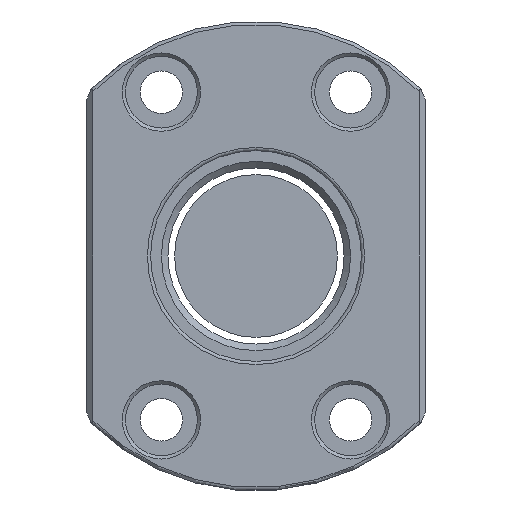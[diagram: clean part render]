
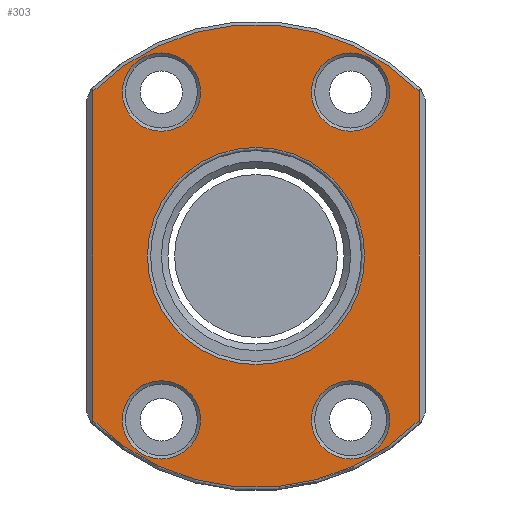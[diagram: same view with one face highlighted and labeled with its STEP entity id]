
A CAD part, front view. The second image highlights one B-rep face of the part: STEP entity #303.
In plain terms, the highlighted planar face has unit normal (0, -1, 0).
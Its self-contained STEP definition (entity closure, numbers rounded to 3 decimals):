
#57=LINE('',#2110,#97);
#58=LINE('',#2114,#98);
#97=VECTOR('',#1744,1.);
#98=VECTOR('',#1747,1.);
#209=PLANE('',#1440);
#303=ADVANCED_FACE('',(#460,#461,#462,#463,#464,#465),#209,.F.);
#460=FACE_BOUND('',#616,.T.);
#461=FACE_BOUND('',#617,.T.);
#462=FACE_BOUND('',#618,.T.);
#463=FACE_BOUND('',#619,.T.);
#464=FACE_BOUND('',#620,.T.);
#465=FACE_BOUND('',#621,.T.);
#616=EDGE_LOOP('',(#827));
#617=EDGE_LOOP('',(#828));
#618=EDGE_LOOP('',(#829));
#619=EDGE_LOOP('',(#830));
#620=EDGE_LOOP('',(#831));
#621=EDGE_LOOP('',(#832,#833,#834,#835));
#827=ORIENTED_EDGE('',*,*,#1174,.T.);
#828=ORIENTED_EDGE('',*,*,#1175,.T.);
#829=ORIENTED_EDGE('',*,*,#1176,.T.);
#830=ORIENTED_EDGE('',*,*,#1177,.T.);
#831=ORIENTED_EDGE('',*,*,#1178,.T.);
#832=ORIENTED_EDGE('',*,*,#1179,.T.);
#833=ORIENTED_EDGE('',*,*,#1180,.T.);
#834=ORIENTED_EDGE('',*,*,#1181,.T.);
#835=ORIENTED_EDGE('',*,*,#1182,.T.);
#1047=VERTEX_POINT('',#2098);
#1048=VERTEX_POINT('',#2100);
#1049=VERTEX_POINT('',#2102);
#1050=VERTEX_POINT('',#2104);
#1051=VERTEX_POINT('',#2106);
#1052=VERTEX_POINT('',#2108);
#1053=VERTEX_POINT('',#2109);
#1054=VERTEX_POINT('',#2111);
#1055=VERTEX_POINT('',#2113);
#1174=EDGE_CURVE('',#1047,#1047,#1299,.T.);
#1175=EDGE_CURVE('',#1048,#1048,#1300,.T.);
#1176=EDGE_CURVE('',#1049,#1049,#1301,.T.);
#1177=EDGE_CURVE('',#1050,#1050,#1302,.T.);
#1178=EDGE_CURVE('',#1051,#1051,#1303,.T.);
#1179=EDGE_CURVE('',#1052,#1053,#1304,.T.);
#1180=EDGE_CURVE('',#1053,#1054,#57,.T.);
#1181=EDGE_CURVE('',#1054,#1055,#1305,.T.);
#1182=EDGE_CURVE('',#1055,#1052,#58,.T.);
#1299=CIRCLE('',#1433,16.65);
#1300=CIRCLE('',#1434,6.);
#1301=CIRCLE('',#1435,6.);
#1302=CIRCLE('',#1436,6.);
#1303=CIRCLE('',#1437,6.);
#1304=CIRCLE('',#1438,35.5);
#1305=CIRCLE('',#1439,35.5);
#1433=AXIS2_PLACEMENT_3D('',#2097,#1732,#1733);
#1434=AXIS2_PLACEMENT_3D('',#2099,#1734,#1735);
#1435=AXIS2_PLACEMENT_3D('',#2101,#1736,#1737);
#1436=AXIS2_PLACEMENT_3D('',#2103,#1738,#1739);
#1437=AXIS2_PLACEMENT_3D('',#2105,#1740,#1741);
#1438=AXIS2_PLACEMENT_3D('',#2107,#1742,#1743);
#1439=AXIS2_PLACEMENT_3D('',#2112,#1745,#1746);
#1440=AXIS2_PLACEMENT_3D('',#2115,#1748,#1749);
#1732=DIRECTION('',(0.,1.,0.));
#1733=DIRECTION('',(0.,0.,1.));
#1734=DIRECTION('',(0.,1.,0.));
#1735=DIRECTION('',(0.,0.,1.));
#1736=DIRECTION('',(0.,1.,0.));
#1737=DIRECTION('',(0.,0.,1.));
#1738=DIRECTION('',(0.,1.,0.));
#1739=DIRECTION('',(0.,0.,1.));
#1740=DIRECTION('',(0.,1.,0.));
#1741=DIRECTION('',(0.,0.,1.));
#1742=DIRECTION('',(0.,-1.,0.));
#1743=DIRECTION('',(0.,0.,1.));
#1744=DIRECTION('',(0.,0.,-1.));
#1745=DIRECTION('',(0.,-1.,0.));
#1746=DIRECTION('',(0.,0.,1.));
#1747=DIRECTION('',(0.,0.,1.));
#1748=DIRECTION('',(0.,1.,0.));
#1749=DIRECTION('',(0.,0.,1.));
#2097=CARTESIAN_POINT('',(0.,0.,0.));
#2098=CARTESIAN_POINT('',(0.,0.,16.65));
#2099=CARTESIAN_POINT('',(-14.5,0.,-25.115));
#2100=CARTESIAN_POINT('',(-14.5,0.,-19.115));
#2101=CARTESIAN_POINT('',(14.5,0.,25.115));
#2102=CARTESIAN_POINT('',(14.5,0.,31.115));
#2103=CARTESIAN_POINT('',(14.5,0.,-25.115));
#2104=CARTESIAN_POINT('',(14.5,0.,-19.115));
#2105=CARTESIAN_POINT('',(-14.5,0.,25.115));
#2106=CARTESIAN_POINT('',(-14.5,0.,31.115));
#2107=CARTESIAN_POINT('',(0.,0.,0.));
#2108=CARTESIAN_POINT('',(25.,0.,25.204));
#2109=CARTESIAN_POINT('',(-25.,0.,25.204));
#2110=CARTESIAN_POINT('',(-25.,0.,-24.171));
#2111=CARTESIAN_POINT('',(-25.,0.,-25.204));
#2112=CARTESIAN_POINT('',(0.,0.,0.));
#2113=CARTESIAN_POINT('',(25.,0.,-25.204));
#2114=CARTESIAN_POINT('',(25.,0.,0.));
#2115=CARTESIAN_POINT('',(0.,0.,0.));
